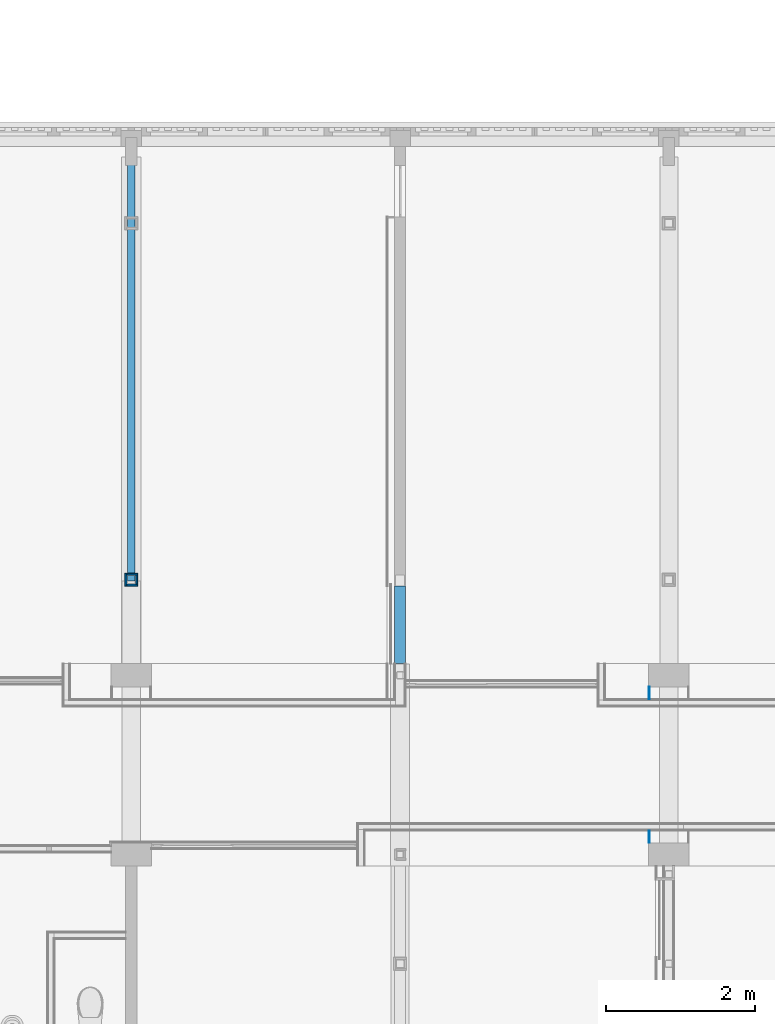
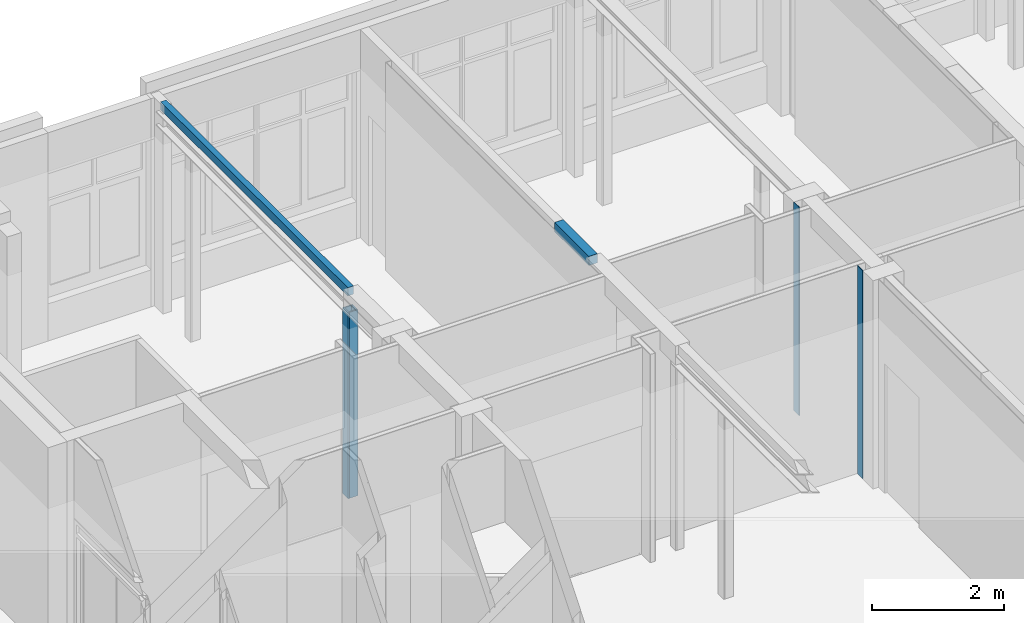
# One storey, part 88 of 135: 8 walls.
"""IFC2X3 building model written with IfcOpenShell, lengths in millimetres."""

from ifc_helpers import new_model, entity, si_unit, converted_unit, derived_unit, money_unit, direction, frame, origin_with_axes, place, context, subcontext, project, spatial, faceted_brep, material, type_object, element, save


model = new_model("IFC2X3")

# Units and contexts
model_context = context("Model", 3, precision=0.01, world=origin_with_axes(), true_north=direction((0.0, 1.0)))
body_context = subcontext(model_context, "Body", "Model", "MODEL_VIEW")
ifc_project = project(units=[si_unit("LENGTHUNIT", "METRE", prefix="MILLI"), si_unit("AREAUNIT", "SQUARE_METRE"), si_unit("VOLUMEUNIT", "CUBIC_METRE"), converted_unit("PLANEANGLEUNIT", "DEGREE", entity("IfcPlaneAngleMeasure", 0.0174532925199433), si_unit("PLANEANGLEUNIT", "RADIAN"), dimensions=[0, 0, 0, 0, 0, 0, 0]), money_unit("EUR"), converted_unit("TIMEUNIT", "Year", entity("IfcTimeMeasure", 31557600.0), si_unit("TIMEUNIT", "SECOND"), dimensions=[0, 0, 1, 0, 0, 0, 0]), si_unit("MASSUNIT", "GRAM", prefix="KILO"), si_unit("THERMODYNAMICTEMPERATUREUNIT", "DEGREE_CELSIUS"), si_unit("LUMINOUSINTENSITYUNIT", "LUMEN"), si_unit("ENERGYUNIT", "JOULE", prefix="MEGA"), derived_unit("THERMALCONDUCTANCEUNIT", [(si_unit("POWERUNIT", "WATT"), 1), (si_unit("LENGTHUNIT", "METRE"), -1), (si_unit("THERMODYNAMICTEMPERATUREUNIT", "KELVIN"), -1)]), derived_unit("SPECIFICHEATCAPACITYUNIT", [(si_unit("ENERGYUNIT", "JOULE"), 1), (si_unit("MASSUNIT", "GRAM", prefix="KILO"), -1), (si_unit("THERMODYNAMICTEMPERATUREUNIT", "KELVIN"), -1)]), derived_unit("MASSDENSITYUNIT", [(si_unit("MASSUNIT", "GRAM", prefix="KILO"), 1), (si_unit("VOLUMEUNIT", "CUBIC_METRE"), -1)])], contexts=[model_context])

# Site, building, storey
site_placement = place(None, origin_with_axes())
site = spatial("IfcSite", under=ifc_project, at=site_placement, Name="Site", CompositionType="ELEMENT")
building_placement = place(site_placement, origin_with_axes())
building = spatial("IfcBuilding", under=site, at=building_placement, Name="Naam gebouw", CompositionType="ELEMENT")
storey_placement = place(building_placement, origin_with_axes())
storey = spatial("IfcBuildingStorey", under=building, at=storey_placement, Name="Begane grond N", CompositionType="ELEMENT", Elevation=0.0)

# Walls
ifc_material_1 = material(Name="Gipsplaat")
wall_type_1 = type_object("IfcWallType", Name="Metalstud 100 enkel 100", PredefinedType="NOTDEFINED")
wall_1_placement = place(storey_placement, frame((42929.99999999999, 18180.91242510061, 0.0), z_axis=(0.0, 0.0, 1.0), x_axis=(0.0, 1.0, 0.0)))
element("IfcWall", 1, at=wall_1_placement, inside=storey, type_object=wall_type_1, material=ifc_material_1, Name="_Wand-x", context=body_context, shape_type="Brep", body=[
    faceted_brep([(164.9999999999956, -12.50000000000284, 0.0), (164.9999999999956, 0.0, 0.0), (164.9999999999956, 0.0, 3850.0), (164.9999999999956, -12.50000000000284, 3850.0), (0.0, -12.50000000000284, 0.0), (0.0, 0.0, 0.0), (0.0, 0.0, 3850.0), (0.0, -12.50000000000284, 3850.0)], [[[0, 1, 2, 3]], [[4, 5, 1, 0]], [[1, 5, 6, 2]], [[2, 6, 7, 3]], [[4, 0, 3, 7]], [[5, 4, 7, 6]]]),
])
wall_2_placement = place(storey_placement, frame((42929.99992251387, 20105.91242510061, 0.0), z_axis=(0.0, 0.0, 1.0), x_axis=(0.0, 1.0, 0.0)))
element("IfcWall", 2, at=wall_2_placement, inside=storey, type_object=wall_type_1, material=ifc_material_1, Name="_Wand-x", context=body_context, shape_type="Brep", body=[
    faceted_brep([(164.9999999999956, -12.50000000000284, 0.0), (164.9999999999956, 0.0, 0.0), (164.9999999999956, 0.0, 3850.0), (164.9999999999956, -12.50000000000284, 3850.0), (0.0, -12.50000000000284, 0.0), (0.0, 0.0, 0.0), (0.0, 0.0, 3850.0), (0.0, -12.50000000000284, 3850.0)], [[[0, 1, 2, 3]], [[0, 4, 5, 1]], [[1, 5, 6, 2]], [[2, 6, 7, 3]], [[4, 0, 3, 7]], [[5, 4, 7, 6]]]),
])
wall_type_2 = type_object("IfcWallType", Name="Gipsplaat 25", PredefinedType="NOTDEFINED")
wall_3_placement = place(storey_placement, frame((36084.99999999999, 21620.9124251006, 0.0), z_axis=(0.0, 0.0, 1.0), x_axis=(0.0, 1.0, 0.0)))
element("IfcWall", 3, at=wall_3_placement, inside=storey, type_object=wall_type_2, material=ifc_material_1, Name="_Wand-x", context=body_context, shape_type="Brep", body=[
    faceted_brep([(145.0000000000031, 25.00000000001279, 0.0), (145.0000000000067, 0.0, 0.0), (24.99999999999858, 0.0, 0.0), (24.99999999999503, 25.00000000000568, 0.0), (145.0000000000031, 25.00000000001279, 3439.999999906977), (145.0000000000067, 0.0, 3439.999999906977), (24.99999999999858, 0.0, 3439.999999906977), (24.99999999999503, 25.00000000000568, 3439.999999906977)], [[[0, 1, 2, 3]], [[1, 0, 4, 5]], [[1, 5, 6, 2]], [[7, 3, 2, 6]], [[4, 0, 3, 7]], [[5, 4, 7, 6]]]),
])
wall_4_placement = place(storey_placement, frame((35915.0, 21620.91242510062, 0.0), z_axis=(0.0, 0.0, 1.0), x_axis=(0.0, 1.0, 0.0)))
element("IfcWall", 4, at=wall_4_placement, inside=storey, type_object=wall_type_2, material=ifc_material_1, Name="_Wand-x", context=body_context, shape_type="Brep", body=[
    faceted_brep([(169.999999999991, -24.99999999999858, 3439.999999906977), (169.999999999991, 0.0, 3439.999999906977), (0.0, 0.0, 3439.999999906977), (0.0, -24.99999999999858, 3439.999999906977), (169.999999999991, -24.99999999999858, 0.0), (169.999999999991, 0.0, 0.0), (0.0, 0.0, 0.0), (0.0, -24.99999999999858, 0.0)], [[[0, 1, 2, 3]], [[1, 0, 4, 5]], [[1, 5, 6, 2]], [[7, 3, 2, 6]], [[4, 0, 3, 7]], [[5, 4, 7, 6]]]),
])
wall_5_placement = place(storey_placement, frame((35915.0, 21620.91242510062, 0.0), z_axis=(0.0, 0.0, 1.0), x_axis=(1.0, 0.0, 0.0)))
element("IfcWall", 5, at=wall_5_placement, inside=storey, type_object=wall_type_2, material=ifc_material_1, Name="_Wand-x", context=body_context, shape_type="Brep", body=[
    faceted_brep([(170.0000000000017, 25.00000000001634, 0.0), (169.9999999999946, 0.0, 0.0), (24.99999999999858, 0.0, 0.0), (24.99999999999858, 25.00000000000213, 0.0), (170.0000000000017, 25.00000000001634, 3439.999999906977), (169.9999999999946, 0.0, 3439.999999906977), (24.99999999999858, 0.0, 3439.999999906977), (24.99999999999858, 25.00000000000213, 3439.999999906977)], [[[0, 1, 2, 3]], [[1, 0, 4, 5]], [[1, 5, 6, 2]], [[7, 3, 2, 6]], [[4, 0, 3, 7]], [[5, 4, 7, 6]]]),
])
wall_6_placement = place(storey_placement, frame((35915.0, 21790.91242510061, 0.0), z_axis=(0.0, 0.0, 1.0), x_axis=(1.0, 0.0, 0.0)))
element("IfcWall", 6, at=wall_6_placement, inside=storey, type_object=wall_type_2, material=ifc_material_1, Name="_Wand-x", context=body_context, shape_type="Brep", body=[
    faceted_brep([(170.0000000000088, -24.99999999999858, 3439.999999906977), (170.0000000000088, 0.0, 3439.999999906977), (24.99999999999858, 0.0, 3439.999999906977), (24.99999999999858, -24.99999999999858, 3439.999999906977), (170.0000000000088, -24.99999999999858, 0.0), (170.0000000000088, 0.0, 0.0), (24.99999999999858, 0.0, 0.0), (24.99999999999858, -24.99999999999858, 0.0)], [[[0, 1, 2, 3]], [[1, 0, 4, 5]], [[1, 5, 6, 2]], [[7, 3, 2, 6]], [[4, 0, 3, 7]], [[5, 4, 7, 6]]]),
])
ifc_material_2 = material(Name="Steen - Betonblok C")
wall_type_3 = type_object("IfcWallType", Name="Steen - Betonblok C 150", PredefinedType="NOTDEFINED")
wall_7_placement = place(storey_placement, frame((39599.99999999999, 21620.9124251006, 3680.005990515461), z_axis=(0.0, 0.0, 1.0), x_axis=(0.0, -1.0, 0.0)))
element("IfcWall", 7, at=wall_7_placement, inside=storey, type_object=wall_type_3, material=ifc_material_2, Name="_Wand-x", context=body_context, shape_type="Brep", body=[
    faceted_brep([(0.0, -75.00000000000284, 169.9940094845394), (1039.999999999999, -75.00000000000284, 169.9940094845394), (1039.999999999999, 75.00000000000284, 169.9940094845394), (0.0, 75.00000000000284, 169.9940094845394), (0.0, -75.00000000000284, 0.0), (1039.999999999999, -75.00000000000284, 0.0), (1039.999999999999, 75.00000000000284, 0.0), (0.0, 75.00000000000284, 0.0)], [[[0, 1, 2, 3]], [[4, 5, 1, 0]], [[2, 1, 5, 6]], [[3, 2, 6, 7]], [[4, 0, 3, 7]], [[7, 6, 5, 4]]]),
])
wall_type_4 = type_object("IfcWallType", Name="Steen - Betonblok C 100", PredefinedType="NOTDEFINED")
wall_8_placement = place(storey_placement, frame((35999.99999999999, 27365.91242510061, 3699.999999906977), z_axis=(0.0, 0.0, 1.0), x_axis=(0.0, -1.0, 0.0)))
element("IfcWall", 8, at=wall_8_placement, inside=storey, type_object=wall_type_4, material=ifc_material_2, Name="_Wand-x", context=body_context, shape_type="Brep", body=[
    faceted_brep([(0.0, -49.99999999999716, 150.0000000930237), (5675.000000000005, -49.99999999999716, 150.0000000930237), (5675.000000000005, 49.99999999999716, 150.0000000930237), (0.0, 49.99999999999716, 150.0000000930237), (0.0, -49.99999999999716, 0.0), (5675.000000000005, -49.99999999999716, 0.0), (5675.000000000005, 49.99999999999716, 0.0), (0.0, 49.99999999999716, 0.0)], [[[0, 1, 2, 3]], [[4, 5, 1, 0]], [[2, 1, 5, 6]], [[3, 2, 6, 7]], [[4, 0, 3, 7]], [[7, 6, 5, 4]]]),
])

save(model, "model.ifc")
